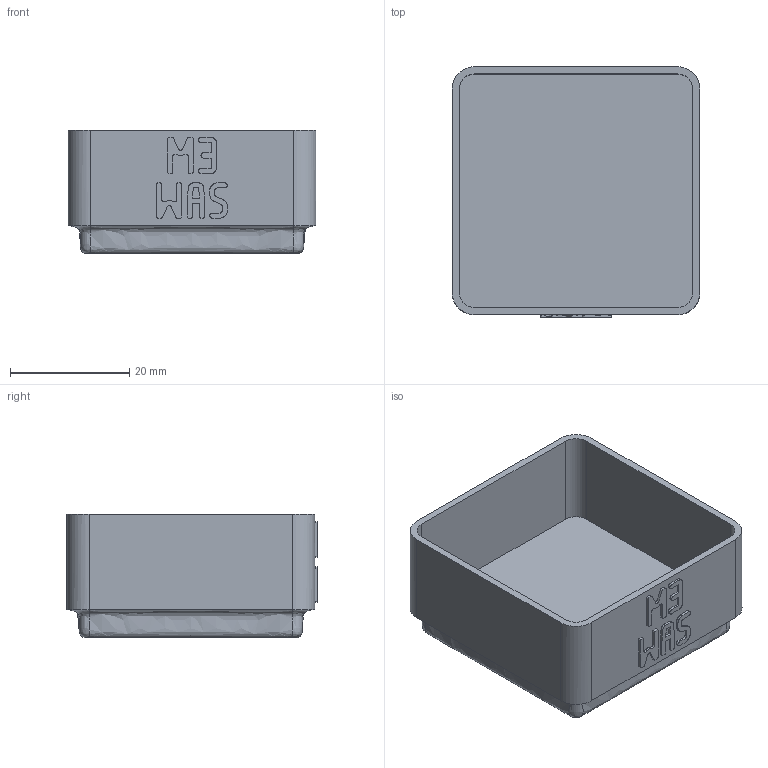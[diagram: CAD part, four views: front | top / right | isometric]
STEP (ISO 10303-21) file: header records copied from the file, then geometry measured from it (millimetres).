
FILE_DESCRIPTION(('Open CASCADE Model'),'2;1');
FILE_NAME('Open CASCADE Shape Model','2026-11-03T15:27:49',('Author'),( 'Open CASCADE'),'Open CASCADE STEP processor 8.0','build123d', 'Unknown');
FILE_SCHEMA(('AUTOMOTIVE_DESIGN { 1 0 10303 214 1 1 1 1 }'));
Length unit declared in the file: millimetre
Products named in the file (1): COMPOUND
Bounding box: 41.5 x 41.9 x 20.75 mm (x, y, z)
Volume: 9650.1 mm3; surface area: 8988 mm2
Topology: 1 solids, 1 shells, 630 faces, 1855 edges, 1234 vertices
Faces by surface type: plane 614, bspline 8, cylinder 8
Entity records: 43886 total; most frequent: CARTESIAN_POINT 9212, DIRECTION 5573, LINE 4299, VECTOR 4299, ORIENTED_EDGE 3710, PCURVE 3710, DEFINITIONAL_REPRESENTATION 3710, EDGE_CURVE 1855
